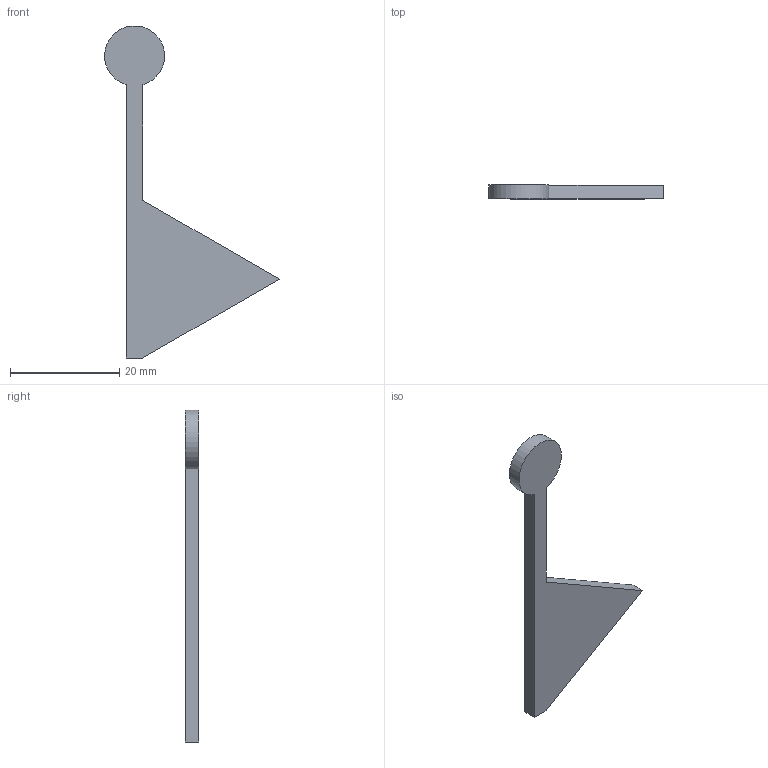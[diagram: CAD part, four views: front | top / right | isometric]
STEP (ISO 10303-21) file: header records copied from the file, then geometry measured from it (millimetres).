
FILE_DESCRIPTION (( 'STEP AP214' ), '1' );
FILE_NAME ('flag.STEP', '2026-04-05T20:31:31', ( '' ), ( '' ), 'SwSTEP 2.0', 'SolidWorks 2026', '' );
FILE_SCHEMA (( 'AUTOMOTIVE_DESIGN' ));
Length unit declared in the file: millimetre
Products named in the file (1): flag
Bounding box: 31.98 x 2.5 x 60.77 mm (x, y, z)
Volume: 1467.8 mm3; surface area: 1653.3 mm2
Topology: 1 solids, 1 shells, 11 faces, 24 edges, 16 vertices
Faces by surface type: plane 8, cylinder 3
Entity records: 327 total; most frequent: DIRECTION 54, CARTESIAN_POINT 52, ORIENTED_EDGE 48, EDGE_CURVE 24, AXIS2_PLACEMENT_3D 18, VECTOR 18, LINE 18, VERTEX_POINT 16
